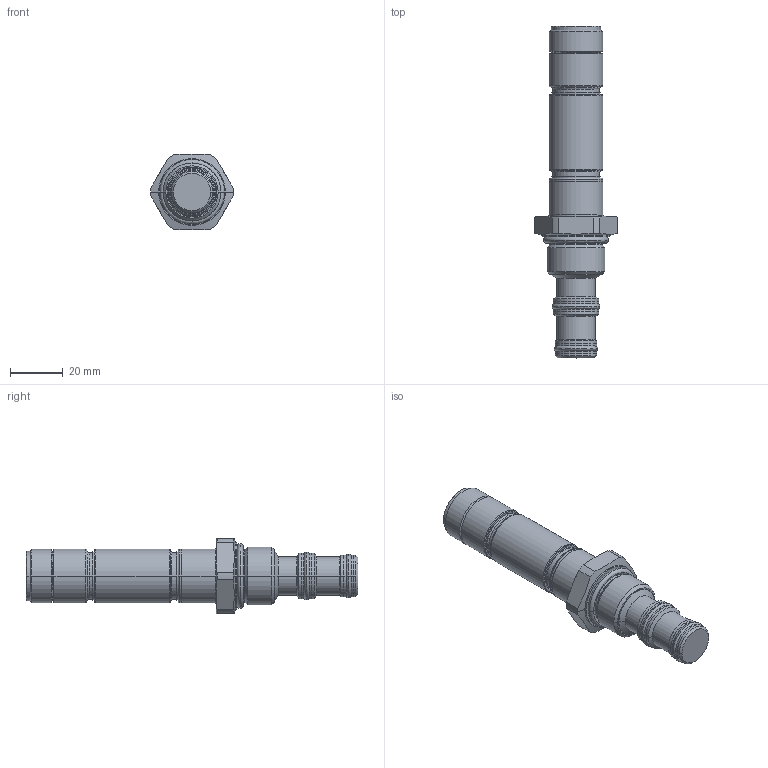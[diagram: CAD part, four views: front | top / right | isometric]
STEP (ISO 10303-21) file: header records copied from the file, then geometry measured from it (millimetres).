
FILE_DESCRIPTION((''),'2;1');
FILE_NAME('5120000_SW0002','2009-03-17T',('jcs'),(''),'PRO/ENGINEER BY PARAMETRIC TECHNOLOGY CORPORATION, 2008010','PRO/ENGINEER BY PARAMETRIC TECHNOLOGY CORPORATION, 2008010','');
FILE_SCHEMA(('CONFIG_CONTROL_DESIGN'));
Length unit declared in the file: inch
Products named in the file (1): 5120000_SW0002
Bounding box: 31.5 x 126.24 x 28.57 mm (x, y, z)
Volume: 39814.6 mm3; surface area: 12002.8 mm2
Topology: 5 solids, 5 shells, 210 faces, 439 edges, 255 vertices
Faces by surface type: cylinder 80, cone 44, plane 32, torus 30, revolution 24
Entity records: 6070 total; most frequent: CARTESIAN_POINT 1424, DIRECTION 1060, ORIENTED_EDGE 878, AXIS2_PLACEMENT_3D 453, EDGE_CURVE 439, CIRCLE 267, VERTEX_POINT 255, EDGE_LOOP 234
